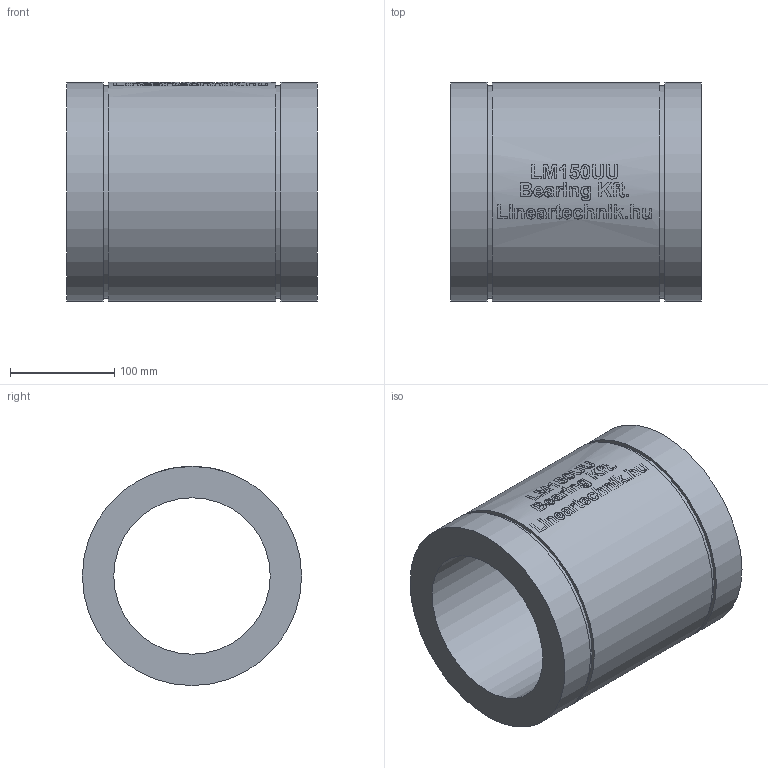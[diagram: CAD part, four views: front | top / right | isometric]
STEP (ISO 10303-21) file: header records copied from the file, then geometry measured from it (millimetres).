
FILE_DESCRIPTION(/* description */ ('Huosing for flange nuts'),/* implementation_level */ '2;1');
FILE_NAME(/* name */ 'LM150UU',/* time_stamp */ '2019-05-07T14:07:48+02:00',/* author */ ('VĂ©gh MĂˇtĂ©'),/* organization */ ('Bearing Kft'),/* preprocessor_version */ 'ST-DEVELOPER v16.7',/* originating_system */ 'DEX',/* authorisation */ $);
FILE_SCHEMA (('AUTOMOTIVE_DESIGN {1 0 10303 214 3 1 1}'));
Length unit declared in the file: millimetre
Products named in the file (1): LM150UU
Bounding box: 240 x 210 x 210 mm (x, y, z)
Volume: 4051155.5 mm3; surface area: 313145 mm2
Topology: 1 solids, 1 shells, 309 faces, 773 edges, 516 vertices
Faces by surface type: plane 159, bspline 98, cylinder 52
Full cylindrical faces by diameter (mm): 150 x1, 204 x2, 210 x3
Entity records: 29055 total; most frequent: CARTESIAN_POINT 22191, ORIENTED_EDGE 1524, DIRECTION 1133, EDGE_CURVE 762, VERTEX_POINT 514, LINE 421, VECTOR 421, EDGE_LOOP 370
